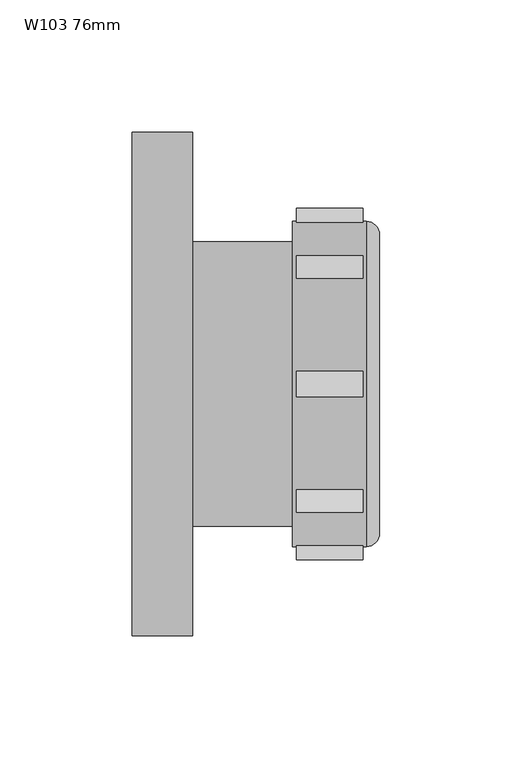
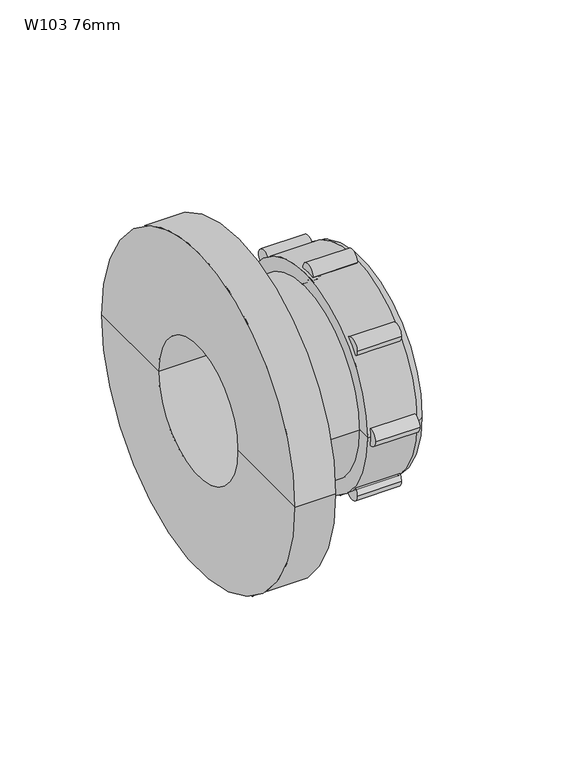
"""IFC4 building model written with IfcOpenShell, lengths in millimetres: pipe fitting geometry, Durapipe_PipeFitting_VulcatheneMechanical_Flange_(L364-L40) : W103 76mm."""

import ifcopenshell
import ifcopenshell.guid

model = None  # the IFC model being written
_history = None  # IfcOwnerHistory: only IFC2X3 demands one
_inside = {}  # id of a spatial element -> (the spatial element, [elements in it])
_under = {}  # id of a project, library or spatial element -> (it, [spatial elements below it])
_declared = {}  # id of a project -> (the project, [libraries it declares])
_typed = {}  # id of a type object -> (the type object, [elements of that type])
_made_of = {}  # id of a material, layer set ... -> (it, [elements and type objects made of it])


def new_model(schema):
    """Start an empty IFC model of exactly this schema.

    Asked for "IFC4X3", IfcOpenShell would pick the latest addendum, in which some entities
    have other attributes; the version numbers below select the first issue.
    IFC2X3 requires an IfcOwnerHistory on every rooted entity: one is made here for all.
    """
    global model, _history
    if schema == "IFC4X3":
        model = ifcopenshell.file(schema_version=(4, 3, 0, 0))
    else:
        model = ifcopenshell.file(schema=schema)
    _inside.clear()
    _under.clear()
    _declared.clear()
    _typed.clear()
    _made_of.clear()
    _history = None
    if model.schema == "IFC2X3":
        org = make("IfcOrganization", Name="unknown")
        user = make(
            "IfcPersonAndOrganization",
            ThePerson=make("IfcPerson", FamilyName="unknown"),
            TheOrganization=org,
        )
        app = make(
            "IfcApplication",
            ApplicationDeveloper=org,
            Version="unknown",
            ApplicationFullName="unknown",
            ApplicationIdentifier="unknown",
        )
        _history = make(
            "IfcOwnerHistory",
            OwningUser=user,
            OwningApplication=app,
            ChangeAction="ADDED",
            CreationDate=0,
        )
    return model


def make(cls, **values):
    """One entity of the class cls with the attributes given. An attribute that is None is left unset."""
    return model.create_entity(
        cls, **{name: value for name, value in values.items() if value is not None}
    )


def rooted(cls, **values):
    """An entity with a GlobalId (a new one), such as an element, a storey or a relation."""
    return make(cls, GlobalId=ifcopenshell.guid.new(), OwnerHistory=_history, **values)


def si_unit(unit_type, name, prefix=None):
    """IfcSIUnit, for example si_unit("LENGTHUNIT", "METRE", prefix="MILLI")."""
    return make("IfcSIUnit", UnitType=unit_type, Prefix=prefix, Name=name)


def assignment(units):
    """IfcUnitAssignment: the units of a project."""
    return None if units is None else make("IfcUnitAssignment", Units=units)


def point(xyz):
    """IfcCartesianPoint."""
    return None if xyz is None else make("IfcCartesianPoint", Coordinates=xyz)


def direction(xyz):
    """IfcDirection."""
    return None if xyz is None else make("IfcDirection", DirectionRatios=xyz)


def frame(location, z_axis=None, x_axis=None):
    """IfcAxis2Placement3D, a coordinate frame: its origin and axes. An axis left out is left unset."""
    return make(
        "IfcAxis2Placement3D",
        Location=point(location),
        Axis=direction(z_axis),
        RefDirection=direction(x_axis),
    )


def frame_2d(location, x_axis=None):
    """IfcAxis2Placement2D, a coordinate frame in the plane: its origin and x axis."""
    return make(
        "IfcAxis2Placement2D", Location=point(location), RefDirection=direction(x_axis)
    )


def origin():
    """The frame at (0, 0, 0) with its axes left unset."""
    return frame((0.0, 0.0, 0.0))


def place(relative_to, where):
    """IfcLocalPlacement: puts the frame where relative to a parent placement (None: the world)."""
    return make(
        "IfcLocalPlacement", PlacementRelTo=relative_to, RelativePlacement=where
    )


def context(
    kind, dimensions, precision=None, world=None, true_north=None, identifier=None
):
    """IfcGeometricRepresentationContext, for example the 3D "Model" context."""
    return make(
        "IfcGeometricRepresentationContext",
        ContextIdentifier=identifier,
        ContextType=kind,
        CoordinateSpaceDimension=dimensions,
        Precision=precision,
        WorldCoordinateSystem=world,
        TrueNorth=true_north,
    )


def project(units=None, contexts=None):
    """IfcProject with its units and contexts."""
    return rooted(
        "IfcProject",
        Name="project",
        RepresentationContexts=contexts,
        UnitsInContext=assignment(units),
    )


def spatial(cls, under=None, at=None, **own):
    """A site, building, storey or space (cls), placed at a placement, below another one or the project."""
    s = rooted(cls, ObjectPlacement=at, **own)
    if under is not None:
        _under.setdefault(under.id(), (under, []))[1].append(s)
    return s


def polyline(points):
    """IfcPolyline through the points."""
    return make("IfcPolyline", Points=[point(p) for p in points])


def circle_curve(where, radius):
    """IfcCircle in the frame where."""
    return make("IfcCircle", Position=where, Radius=radius)


def ellipse_curve(where, semi_axis1, semi_axis2):
    """IfcEllipse in the frame where."""
    return make(
        "IfcEllipse", Position=where, SemiAxis1=semi_axis1, SemiAxis2=semi_axis2
    )


def trimmed(basis, trim1, trim2, sense, master):
    """IfcTrimmedCurve: the piece of a basis curve between two trims."""
    return make(
        "IfcTrimmedCurve",
        BasisCurve=basis,
        Trim1=trim1,
        Trim2=trim2,
        SenseAgreement=sense,
        MasterRepresentation=master,
    )


def segment(curve, same_sense, transition):
    """IfcCompositeCurveSegment."""
    return make(
        "IfcCompositeCurveSegment",
        Transition=transition,
        SameSense=same_sense,
        ParentCurve=curve,
    )


def composite_curve(segments, self_intersect=None):
    """IfcCompositeCurve: segments joined end to end."""
    return make("IfcCompositeCurve", Segments=segments, SelfIntersect=self_intersect)


def outline(outer, holes=None, kind="AREA"):
    """IfcArbitraryClosedProfileDef: a profile drawn as a closed curve; with holes, ...WithVoids."""
    if holes is None:
        return make("IfcArbitraryClosedProfileDef", ProfileType=kind, OuterCurve=outer)
    return make(
        "IfcArbitraryProfileDefWithVoids",
        ProfileType=kind,
        OuterCurve=outer,
        InnerCurves=holes,
    )


def extrude(swept, where, along, depth):
    """IfcExtrudedAreaSolid: the profile swept, set in the frame where, extruded along a direction by depth."""
    return make(
        "IfcExtrudedAreaSolid",
        SweptArea=swept,
        Position=where,
        ExtrudedDirection=direction(along),
        Depth=depth,
    )


def shape(context_of_items, identifier, shape_type, items):
    """IfcShapeRepresentation: the items that make up one representation, for example the "Body"."""
    return make(
        "IfcShapeRepresentation",
        ContextOfItems=context_of_items,
        RepresentationIdentifier=identifier,
        RepresentationType=shape_type,
        Items=items,
    )


def source(mapping_origin, context_of_items, identifier, shape_type, items):
    """IfcRepresentationMap: a shape defined once, which mapped items show again and again."""
    return make(
        "IfcRepresentationMap",
        MappingOrigin=mapping_origin,
        MappedRepresentation=shape(context_of_items, identifier, shape_type, items),
    )


def transform(
    local_origin,
    x_axis=None,
    y_axis=None,
    z_axis=None,
    scale=None,
    scale2=None,
    scale3=None,
    uniform=True,
):
    """IfcCartesianTransformationOperator3D, or its non-uniform kind. x_axis, y_axis, z_axis: its Axis1, 2, 3."""
    if uniform:
        return make(
            "IfcCartesianTransformationOperator3D",
            Axis1=direction(x_axis),
            Axis2=direction(y_axis),
            LocalOrigin=point(local_origin),
            Scale=scale,
            Axis3=direction(z_axis),
        )
    return make(
        "IfcCartesianTransformationOperator3DnonUniform",
        Axis1=direction(x_axis),
        Axis2=direction(y_axis),
        LocalOrigin=point(local_origin),
        Scale=scale,
        Axis3=direction(z_axis),
        Scale2=scale2,
        Scale3=scale3,
    )


def mapped(mapping_source, mapping_target):
    """IfcMappedItem: shows the shape of a source again, moved by a transform."""
    return make(
        "IfcMappedItem", MappingSource=mapping_source, MappingTarget=mapping_target
    )


def made_of(thing, what):
    """Note that an element or type object is made of a material, layer set ...; save() writes the relation."""
    if what is not None:
        _made_of.setdefault(what.id(), (what, []))[1].append(thing)
    return thing


def element(
    cls,
    number,
    at=None,
    inside=None,
    cuts=None,
    type_object=None,
    material=None,
    context=None,
    identifier="Body",
    shape_type=None,
    held_by="IfcProductDefinitionShape",
    body=None,
    shapes=None,
    **own,
):
    """One element of the class cls, such as IfcWall. Its Tag is "e" and its number.

    at: its placement. inside: the storey or other place that contains it. cuts: it is an
    opening in that element (IfcRelVoidsElement). A single representation is given by context,
    identifier, shape_type and body (its items); several are given by shapes. held_by: the class
    of the entity that holds the representations. save() writes the other relations.
    """
    e = rooted(cls, Tag="e%d" % number, ObjectPlacement=at, **own)
    if body is not None:
        shapes = [shape(context, identifier, shape_type, body)]
    if shapes is not None:
        e.Representation = make(held_by, Representations=shapes)
    if inside is not None:
        _inside.setdefault(inside.id(), (inside, []))[1].append(e)
    if cuts is not None:
        rooted(
            "IfcRelVoidsElement", RelatingBuildingElement=cuts, RelatedOpeningElement=e
        )
    if type_object is not None:
        _typed.setdefault(type_object.id(), (type_object, []))[1].append(e)
    return made_of(e, material)


def aggregate(whole, parts):
    """IfcRelAggregates: a whole, such as a stair, and the parts it consists of."""
    return rooted("IfcRelAggregates", RelatingObject=whole, RelatedObjects=parts)


def save(model, path):
    """Write the relations noted so far, then the file.

    IfcRelAggregates (storeys below a building ...), IfcRelContainedInSpatialStructure (elements
    in a storey), IfcRelDefinesByType, IfcRelAssociatesMaterial and IfcRelDeclares: one each for
    every whole, place, type object, material and project.
    """
    for whole, parts in _under.values():
        aggregate(whole, parts)
    for where, things in _inside.values():
        rooted(
            "IfcRelContainedInSpatialStructure",
            RelatedElements=things,
            RelatingStructure=where,
        )
    for kind, things in _typed.values():
        rooted("IfcRelDefinesByType", RelatedObjects=things, RelatingType=kind)
    for what, things in _made_of.values():
        rooted("IfcRelAssociatesMaterial", RelatedObjects=things, RelatingMaterial=what)
    for by, libraries in _declared.values():
        rooted("IfcRelDeclares", RelatingContext=by, RelatedDefinitions=libraries)
    model.write(path)


def plane_surface(at):
    """IfcPlane: the flat surface through the origin of the frame at, square to its z axis."""
    return make("IfcPlane", Position=at)


def cylinder_surface(at, radius):
    """IfcCylindricalSurface: all points at the distance radius from the z axis of the frame at."""
    return make("IfcCylindricalSurface", Position=at, Radius=radius)


def revolved_surface(curve, axis_point, axis_direction):
    """IfcSurfaceOfRevolution: the curve turned about the line through axis_point along axis_direction."""
    return make(
        "IfcSurfaceOfRevolution",
        SweptCurve=make("IfcArbitraryOpenProfileDef", ProfileType="CURVE", Curve=curve),
        AxisPosition=make("IfcAxis1Placement", Location=point(axis_point), Axis=direction(axis_direction)),
    )


def advanced_brep(points, edges, surfaces, faces):
    """IfcAdvancedBrep: a solid bounded by faces that lie on surfaces and meet in shared edges.

    An edge is (start, end): straight between two places in points (the first is 0);
    or (start, end, curve); or (start, end, curve, False) where it runs against its curve.
    A face is (place in surfaces, loops), or (place, loops, False) where it looks against
    its surface's normal. A loop lists edges by number (the first is 1), with a minus sign
    where the edge is run from its end to its start. The first loop is the outer one.
    """
    corners = [point(p) for p in points]
    vertices = [make("IfcVertexPoint", VertexGeometry=c) for c in corners]
    made = []
    for start, end, *more in edges:
        made.append(
            make(
                "IfcEdgeCurve",
                EdgeStart=vertices[start],
                EdgeEnd=vertices[end],
                EdgeGeometry=more[0] if more else make("IfcPolyline", Points=[corners[start], corners[end]]),
                SameSense=more[1] if len(more) > 1 else True,
            )
        )
    hull = []
    for where, loops, *sense in faces:
        bounds = []
        for j, loop in enumerate(loops):
            ring = [make("IfcOrientedEdge", EdgeElement=made[abs(k) - 1], Orientation=k > 0) for k in loop]
            bounds.append(
                make(
                    "IfcFaceOuterBound" if j == 0 else "IfcFaceBound",
                    Bound=make("IfcEdgeLoop", EdgeList=ring),
                    Orientation=True,
                )
            )
        hull.append(make("IfcAdvancedFace", Bounds=bounds, FaceSurface=surfaces[where], SameSense=sense[0] if sense else True))
    return make("IfcAdvancedBrep", Outer=make("IfcClosedShell", CfsFaces=hull))


def w103_76mm_3b32ef74(model_context):
    return source(origin(), model_context, "Body", "SolidModel", [
        advanced_brep(
        [(40.5, -35.9917352, -35.9917352), (40.5, 35.9917352, 35.9917352), (40.5, 31.3248304, 31.3248304), (40.5, -31.3248304, -31.3248304), (20.2, -32.8804653, -32.8804653), (20.2, 32.8804653, 32.8804653), (-4.5, -32.8804653, -32.8804653), (-4.5, 32.8804653, 32.8804653), (-4.5, -31.3248304, -31.3248304), (-4.5, 31.3248304, 31.3248304), (29.8, -31.3248304, -31.3248304), (29.8, 31.3248304, 31.3248304), (29.8, -30.6884343, -30.6884343), (29.8, 30.6884343, 30.6884343), (34.4, -31.3248304, -31.3248304), (34.4, 31.3248304, 31.3248304), (34.4, 30.6884343, 30.6884343), (34.4, -30.6884343, -30.6884343)],
        [
            (0, 1, circle_curve(frame((40.5, 0.0, 0.0), z_axis=(1.0, 0.0, 0.0), x_axis=(0.0, 0.7071067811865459, 0.7071067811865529)), 50.9)),
            (1, 2),
            (2, 3, circle_curve(frame((40.5, 0.0, 0.0), z_axis=(-1.0, 0.0, 0.0), x_axis=(0.0, 0.7071067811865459, 0.7071067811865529)), 44.3)),
            (3, 0),
            (1, 0, circle_curve(frame((40.5, 0.0, 0.0), z_axis=(1.0, 0.0, 0.0), x_axis=(0.0, 0.7071067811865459, 0.7071067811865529)), 50.9)),
            (3, 2, circle_curve(frame((40.5, 0.0, 0.0), z_axis=(-1.0, 0.0, 0.0), x_axis=(0.0, 0.7071067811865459, 0.7071067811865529)), 44.3)),
            (0, 4),
            (4, 5, circle_curve(frame((20.2, 0.0, 0.0), z_axis=(1.0, 0.0, 0.0), x_axis=(0.0, 0.7071067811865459, 0.7071067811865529)), 46.5)),
            (5, 1),
            (5, 4, circle_curve(frame((20.2, 0.0, 0.0), z_axis=(1.0, 0.0, 0.0), x_axis=(0.0, 0.7071067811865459, 0.7071067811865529)), 46.5)),
            (6, 7, circle_curve(frame((-4.5, 0.0, 0.0), z_axis=(1.0, 0.0, 0.0), x_axis=(0.0, 0.7071067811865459, 0.7071067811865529)), 46.5)),
            (7, 5),
            (4, 6),
            (7, 6, circle_curve(frame((-4.5, 0.0, 0.0), z_axis=(1.0, 0.0, 0.0), x_axis=(0.0, 0.7071067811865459, 0.7071067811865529)), 46.5)),
            (6, 8),
            (8, 9, circle_curve(frame((-4.5, 0.0, 0.0), z_axis=(1.0, 0.0, 0.0), x_axis=(0.0, 0.7071067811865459, 0.7071067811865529)), 44.3)),
            (9, 7),
            (9, 8, circle_curve(frame((-4.5, 0.0, 0.0), z_axis=(1.0, 0.0, 0.0), x_axis=(0.0, 0.7071067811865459, 0.7071067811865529)), 44.3)),
            (8, 10),
            (10, 11, circle_curve(frame((29.8, 0.0, 0.0), z_axis=(1.0, 0.0, 0.0), x_axis=(0.0, 0.7071067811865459, 0.7071067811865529)), 44.3)),
            (11, 9),
            (11, 10, circle_curve(frame((29.8, 0.0, 0.0), z_axis=(1.0, 0.0, 0.0), x_axis=(0.0, 0.7071067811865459, 0.7071067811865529)), 44.3)),
            (10, 12),
            (12, 13, circle_curve(frame((29.8, 0.0, 0.0), z_axis=(1.0, 0.0, 0.0), x_axis=(0.0, 0.7071067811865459, 0.7071067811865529)), 43.4)),
            (13, 11),
            (13, 12, circle_curve(frame((29.8, 0.0, 0.0), z_axis=(1.0, 0.0, 0.0), x_axis=(0.0, 0.7071067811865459, 0.7071067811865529)), 43.4)),
            (14, 15, circle_curve(frame((34.4, 0.0, 0.0), z_axis=(1.0, 0.0, 0.0), x_axis=(0.0, 0.7071067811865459, 0.7071067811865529)), 44.3)),
            (15, 16),
            (16, 17, circle_curve(frame((34.4, 0.0, 0.0), z_axis=(-1.0, 0.0, 0.0), x_axis=(0.0, 0.7071067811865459, 0.7071067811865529)), 43.4)),
            (17, 14),
            (15, 14, circle_curve(frame((34.4, 0.0, 0.0), z_axis=(1.0, 0.0, 0.0), x_axis=(0.0, 0.7071067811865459, 0.7071067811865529)), 44.3)),
            (17, 16, circle_curve(frame((34.4, 0.0, 0.0), z_axis=(-1.0, 0.0, 0.0), x_axis=(0.0, 0.7071067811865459, 0.7071067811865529)), 43.4)),
            (2, 15),
            (14, 3),
            (12, 17),
            (16, 13),
        ],
        [
            plane_surface(frame((40.5, 0.0, 0.0), z_axis=(1.0, 0.0, 0.0), x_axis=(0.0, 0.707106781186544, 0.707106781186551))),
            revolved_surface(polyline([(40.5, 35.9917352, 35.9917352), (20.2, 32.8804653, 32.8804653)]), (45.5, 0.0, 0.0), (-1.0000000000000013, 0.0, 0.0)),
            cylinder_surface(frame((-6.5706557, 0.0, 0.0), z_axis=(-1.0000000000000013, 0.0, 0.0), x_axis=(0.0, 0.7071067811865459, 0.7071067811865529)), 46.5),
            plane_surface(frame((-4.5, 0.0, 0.0), z_axis=(-1.0, 0.0, 0.0), x_axis=(0.0, 0.707106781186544, 0.707106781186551))),
            revolved_surface(polyline([(-4.499999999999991, 31.324830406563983, 31.324830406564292), (29.8000000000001, 31.324830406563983, 31.324830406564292)]), (-7.992991, 0.0, 0.0), (-1.0000000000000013, 0.0, 0.0)),
            plane_surface(frame((29.8, 0.0, 0.0), z_axis=(-1.0, 0.0, 0.0), x_axis=(0.0, 0.707106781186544, 0.707106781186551))),
            plane_surface(frame((34.4, 0.0, 0.0), z_axis=(1.0, 0.0, 0.0), x_axis=(0.0, 0.707106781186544, 0.707106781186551))),
            revolved_surface(polyline([(34.39999999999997, 31.324830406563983, 31.324830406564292), (40.499999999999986, 31.324830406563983, 31.324830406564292)]), (45.5, 0.0, 0.0), (-1.0000000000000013, 0.0, 0.0)),
            revolved_surface(polyline([(29.79999999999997, 30.68843430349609, 30.688434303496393), (34.39999999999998, 30.68843430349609, 30.688434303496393)]), (42.0661924, 0.0, 0.0), (-1.0000000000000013, 0.0, 0.0)),
        ],
        [
            (0, [[1, 2, 3, 4]]),
            (0, [[-2, 5, -4, 6]]),
            (1, [[-1, 7, 8, 9]]),
            (1, [[-5, -9, 10, -7]]),
            (2, [[11, 12, -8, 13]]),
            (2, [[-12, 14, -13, -10]]),
            (3, [[-11, 15, 16, 17]]),
            (3, [[-14, -17, 18, -15]]),
            (4, [[19, 20, 21, -16]]),
            (4, [[-19, -18, -21, 22]]),
            (5, [[-20, 23, 24, 25]]),
            (5, [[-22, -25, 26, -23]]),
            (6, [[27, 28, 29, 30]]),
            (6, [[31, -30, 32, -28]]),
            (7, [[-3, 33, -27, 34]]),
            (7, [[-6, -34, -31, -33]]),
            (8, [[35, -29, 36, -24]]),
            (8, [[-35, -26, -36, -32]]),
        ],
    ),
        advanced_brep(
        [(13.8, -61.5, 0.0), (13.8, 61.5, 0.0), (41.8, 61.5, 0.0), (41.8, -61.5, 0.0), (13.8, -53.0, 0.0), (13.8, 53.0, 0.0), (46.8, -56.5, 0.0), (46.8, 56.5, 0.0), (46.8, 45.0, 0.0), (46.8, -45.0, 0.0), (40.5, -53.0, 0.0), (40.5, 53.0, 0.0), (40.5, -45.0, 0.0), (40.5, 45.0, 0.0)],
        [
            (0, 1, circle_curve(frame((13.8, 0.0, 0.0), z_axis=(1.0, 0.0, 0.0), x_axis=(0.0, 1.0000000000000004, 0.0)), 61.5)),
            (1, 2),
            (2, 3, circle_curve(frame((41.8, 0.0, 0.0), z_axis=(-1.0, 0.0, 0.0), x_axis=(0.0, 1.0000000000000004, 0.0)), 61.5)),
            (3, 0),
            (1, 0, circle_curve(frame((13.8, 0.0, 0.0), z_axis=(1.0, 0.0, 0.0), x_axis=(0.0, 1.0000000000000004, 0.0)), 61.5)),
            (3, 2, circle_curve(frame((41.8, 0.0, 0.0), z_axis=(-1.0, 0.0, 0.0), x_axis=(0.0, 1.0000000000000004, 0.0)), 61.5)),
            (4, 5, circle_curve(frame((13.8, 0.0, 0.0), z_axis=(1.0, 0.0, 0.0), x_axis=(0.0, 1.0000000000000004, 0.0)), 53.0)),
            (5, 1),
            (0, 4),
            (5, 4, circle_curve(frame((13.8, 0.0, 0.0), z_axis=(1.0, 0.0, 0.0), x_axis=(0.0, 1.0000000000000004, 0.0)), 53.0)),
            (6, 7, circle_curve(frame((46.8, 0.0, 0.0), z_axis=(1.0, 0.0, 0.0), x_axis=(0.0, 1.0000000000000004, 0.0)), 56.5)),
            (7, 8),
            (8, 9, circle_curve(frame((46.8, 0.0, 0.0), z_axis=(-1.0, 0.0, 0.0), x_axis=(0.0, 1.0000000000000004, 0.0)), 45.0)),
            (9, 6),
            (7, 6, circle_curve(frame((46.8, 0.0, 0.0), z_axis=(1.0, 0.0, 0.0), x_axis=(0.0, 1.0000000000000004, 0.0)), 56.5)),
            (9, 8, circle_curve(frame((46.8, 0.0, 0.0), z_axis=(-1.0, 0.0, 0.0), x_axis=(0.0, 1.0000000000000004, 0.0)), 45.0)),
            (2, 7, circle_curve(frame((41.8, 56.5, 0.0), z_axis=(0.0, 0.0, -1.0000000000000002), x_axis=(1.0000000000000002, 0.0, 0.0)), 5.0)),
            (6, 3, circle_curve(frame((41.8, -56.5, 0.0), z_axis=(0.0, 0.0, -1.0000000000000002), x_axis=(1.0000000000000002, 0.0, 0.0)), 5.0)),
            (10, 11, circle_curve(frame((40.5, 0.0, 0.0), z_axis=(1.0, 0.0, 0.0), x_axis=(0.0, 1.0000000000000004, 0.0)), 53.0)),
            (11, 5),
            (4, 10),
            (11, 10, circle_curve(frame((40.5, 0.0, 0.0), z_axis=(1.0, 0.0, 0.0), x_axis=(0.0, 1.0000000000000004, 0.0)), 53.0)),
            (12, 13, circle_curve(frame((40.5, 0.0, 0.0), z_axis=(1.0, 0.0, 0.0), x_axis=(0.0, 1.0000000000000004, 0.0)), 45.0)),
            (13, 11),
            (10, 12),
            (13, 12, circle_curve(frame((40.5, 0.0, 0.0), z_axis=(1.0, 0.0, 0.0), x_axis=(0.0, 1.0000000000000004, 0.0)), 45.0)),
            (8, 13),
            (12, 9),
        ],
        [
            cylinder_surface(frame((1607.6018184, 0.0, 0.0), z_axis=(-1.0000000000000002, 0.0, 0.0), x_axis=(0.0, 1.0000000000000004, 0.0)), 61.5),
            plane_surface(frame((13.8, 0.0, 0.0), z_axis=(-1.0, 0.0, 0.0), x_axis=(0.0, 1.0, 0.0))),
            plane_surface(frame((46.8, 0.0, 0.0), z_axis=(1.0, 0.0, 0.0), x_axis=(0.0, 1.0, 0.0))),
            revolved_surface(trimmed(ellipse_curve(frame((41.8, 56.5, 0.0), z_axis=(0.0, 0.0, 1.0000000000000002), x_axis=(1.0000000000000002, 0.0, 0.0)), 5.0, 5.0), [point((46.8, 56.5, 0.0))], [point((41.8, 61.5, 0.0))], True, "CARTESIAN"), (1607.6018184, 0.0, 0.0), (-1.0000000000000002, 0.0, 0.0)),
            revolved_surface(polyline([(13.799999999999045, 53.00000000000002, 0.0), (40.49999999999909, 53.00000000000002, 0.0)]), (1607.6018184, 0.0, 0.0), (-1.0000000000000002, 0.0, 0.0)),
            plane_surface(frame((40.5, 0.0, 0.0), z_axis=(-1.0, 0.0, 0.0), x_axis=(0.0, 1.0, 0.0))),
            revolved_surface(polyline([(40.49999999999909, 45.00000000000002, 0.0), (46.799999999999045, 45.00000000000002, 0.0)]), (1607.6018184, 0.0, 0.0), (-1.0000000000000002, 0.0, 0.0)),
        ],
        [
            (0, [[1, 2, 3, 4]]),
            (0, [[5, -4, 6, -2]]),
            (1, [[7, 8, -1, 9]]),
            (1, [[10, -9, -5, -8]]),
            (2, [[11, 12, 13, 14]]),
            (2, [[15, -14, 16, -12]]),
            (3, [[-3, 17, -11, 18]]),
            (3, [[-6, -18, -15, -17]]),
            (4, [[19, 20, -7, 21]]),
            (4, [[22, -21, -10, -20]]),
            (5, [[23, 24, -19, 25]]),
            (5, [[26, -25, -22, -24]]),
            (6, [[-13, 27, -23, 28]]),
            (6, [[-16, -28, -26, -27]]),
        ],
    ),
        extrude(outline(composite_curve([segment(trimmed(circle_curve(frame_2d((0.0, 61.5)), 5.0), [point((-5.0, 61.5))], [point((5.0, 61.5))], False, "CARTESIAN"), True, "CONTINUOUS"), segment(trimmed(circle_curve(frame_2d((0.0, 61.5)), 5.0), [point((5.0, 61.5))], [point((-5.0, 61.5))], False, "CARTESIAN"), True, "CONTINUOUS")], self_intersect=False)), frame((15.3, 0.0, 0.0), z_axis=(1.0, 0.0, 0.0), x_axis=(0.0, 1.0, 0.0)), (0.0, 0.0, 1.0), 25.2),
        extrude(outline(composite_curve([segment(trimmed(circle_curve(frame_2d((43.487067, 43.487067)), 5.0), [point((38.487067, 43.487067))], [point((48.487067, 43.487067))], False, "CARTESIAN"), True, "CONTINUOUS"), segment(trimmed(circle_curve(frame_2d((43.487067, 43.487067)), 5.0), [point((48.487067, 43.487067))], [point((38.487067, 43.487067))], False, "CARTESIAN"), True, "CONTINUOUS")], self_intersect=False)), frame((15.3, 0.0, 0.0), z_axis=(1.0, 0.0, 0.0), x_axis=(0.0, 1.0, 0.0)), (0.0, 0.0, 1.0), 25.2),
        extrude(outline(composite_curve([segment(trimmed(circle_curve(frame_2d((61.5, 0.0)), 5.0), [point((56.5, 0.0))], [point((66.5, 0.0))], False, "CARTESIAN"), True, "CONTINUOUS"), segment(trimmed(circle_curve(frame_2d((61.5, 0.0)), 5.0), [point((66.5, 0.0))], [point((56.5, 0.0))], False, "CARTESIAN"), True, "CONTINUOUS")], self_intersect=False)), frame((15.3, 0.0, 0.0), z_axis=(1.0, 0.0, 0.0), x_axis=(0.0, 1.0, 0.0)), (0.0, 0.0, 1.0), 25.2),
        extrude(outline(composite_curve([segment(trimmed(circle_curve(frame_2d((43.487067, -43.487067)), 5.0), [point((38.487067, -43.487067))], [point((48.487067, -43.487067))], False, "CARTESIAN"), True, "CONTINUOUS"), segment(trimmed(circle_curve(frame_2d((43.487067, -43.487067)), 5.0), [point((48.487067, -43.487067))], [point((38.487067, -43.487067))], False, "CARTESIAN"), True, "CONTINUOUS")], self_intersect=False)), frame((15.3, 0.0, 0.0), z_axis=(1.0, 0.0, 0.0), x_axis=(0.0, 1.0, 0.0)), (0.0, 0.0, 1.0), 25.2),
        extrude(outline(composite_curve([segment(trimmed(circle_curve(frame_2d((0.0, -61.5)), 5.0), [point((-5.0, -61.5))], [point((5.0, -61.5))], False, "CARTESIAN"), True, "CONTINUOUS"), segment(trimmed(circle_curve(frame_2d((0.0, -61.5)), 5.0), [point((5.0, -61.5))], [point((-5.0, -61.5))], False, "CARTESIAN"), True, "CONTINUOUS")], self_intersect=False)), frame((15.3, 0.0, 0.0), z_axis=(1.0, 0.0, 0.0), x_axis=(0.0, 1.0, 0.0)), (0.0, 0.0, 1.0), 25.2),
        extrude(outline(composite_curve([segment(trimmed(circle_curve(frame_2d((-43.487067, -43.487067)), 5.0), [point((-48.487067, -43.487067))], [point((-38.487067, -43.487067))], False, "CARTESIAN"), True, "CONTINUOUS"), segment(trimmed(circle_curve(frame_2d((-43.487067, -43.487067)), 5.0), [point((-38.487067, -43.487067))], [point((-48.487067, -43.487067))], False, "CARTESIAN"), True, "CONTINUOUS")], self_intersect=False)), frame((15.3, 0.0, 0.0), z_axis=(1.0, 0.0, 0.0), x_axis=(0.0, 1.0, 0.0)), (0.0, 0.0, 1.0), 25.2),
        extrude(outline(composite_curve([segment(trimmed(circle_curve(frame_2d((-61.5, 0.0)), 5.0), [point((-66.5, 0.0))], [point((-56.5, 0.0))], False, "CARTESIAN"), True, "CONTINUOUS"), segment(trimmed(circle_curve(frame_2d((-61.5, 0.0)), 5.0), [point((-56.5, 0.0))], [point((-66.5, 0.0))], False, "CARTESIAN"), True, "CONTINUOUS")], self_intersect=False)), frame((15.3, 0.0, 0.0), z_axis=(1.0, 0.0, 0.0), x_axis=(0.0, 1.0, 0.0)), (0.0, 0.0, 1.0), 25.2),
        extrude(outline(composite_curve([segment(trimmed(circle_curve(frame_2d((-43.487067, 43.487067)), 5.0), [point((-48.487067, 43.487067))], [point((-38.487067, 43.487067))], False, "CARTESIAN"), True, "CONTINUOUS"), segment(trimmed(circle_curve(frame_2d((-43.487067, 43.487067)), 5.0), [point((-38.487067, 43.487067))], [point((-48.487067, 43.487067))], False, "CARTESIAN"), True, "CONTINUOUS")], self_intersect=False)), frame((15.3, 0.0, 0.0), z_axis=(1.0, 0.0, 0.0), x_axis=(0.0, 1.0, 0.0)), (0.0, 0.0, 1.0), 25.2),
        advanced_brep(
        [(-23.9, -53.75, 0.0), (-23.9, 53.75, 0.0), (40.5, 53.75, 0.0), (40.5, -53.75, 0.0), (-23.9, -95.25, 0.0), (-23.9, 95.25, 0.0), (-46.9, -95.25, 0.0), (-46.9, 95.25, 0.0), (-46.9, -39.2, 0.0), (-46.9, 39.2, 0.0), (40.5, 48.05, 0.0), (40.5, -48.05, 0.0), (-6.0, -39.2, 0.0), (-6.0, 39.2, 0.0), (-6.0, 48.05, 0.0), (-6.0, -48.05, 0.0)],
        [
            (0, 1, circle_curve(frame((-23.9, 0.0, 0.0), z_axis=(1.0, 0.0, 0.0), x_axis=(0.0, 1.0, 0.0)), 53.75)),
            (1, 2),
            (2, 3, circle_curve(frame((40.5, 0.0, 0.0), z_axis=(-1.0, 0.0, 0.0), x_axis=(0.0, 1.0, 0.0)), 53.75)),
            (3, 0),
            (1, 0, circle_curve(frame((-23.9, 0.0, 0.0), z_axis=(1.0, 0.0, 0.0), x_axis=(0.0, 1.0, 0.0)), 53.75)),
            (3, 2, circle_curve(frame((40.5, 0.0, 0.0), z_axis=(-1.0, 0.0, 0.0), x_axis=(0.0, 1.0, 0.0)), 53.75)),
            (0, 4),
            (4, 5, circle_curve(frame((-23.9, 0.0, 0.0), z_axis=(1.0, 0.0, 0.0), x_axis=(0.0, 1.0, 0.0)), 95.25)),
            (5, 1),
            (5, 4, circle_curve(frame((-23.9, 0.0, 0.0), z_axis=(1.0, 0.0, 0.0), x_axis=(0.0, 1.0, 0.0)), 95.25)),
            (4, 6),
            (6, 7, circle_curve(frame((-46.9, 0.0, 0.0), z_axis=(1.0, 0.0, 0.0), x_axis=(0.0, 1.0, 0.0)), 95.25)),
            (7, 5),
            (7, 6, circle_curve(frame((-46.9, 0.0, 0.0), z_axis=(1.0, 0.0, 0.0), x_axis=(0.0, 1.0, 0.0)), 95.25)),
            (6, 8),
            (8, 9, circle_curve(frame((-46.9, 0.0, 0.0), z_axis=(1.0, 0.0, 0.0), x_axis=(0.0, 1.0, 0.0)), 39.2)),
            (9, 7),
            (9, 8, circle_curve(frame((-46.9, 0.0, 0.0), z_axis=(1.0, 0.0, 0.0), x_axis=(0.0, 1.0, 0.0)), 39.2)),
            (2, 10),
            (10, 11, circle_curve(frame((40.5, 0.0, 0.0), z_axis=(-1.0, 0.0, 0.0), x_axis=(0.0, 1.0, 0.0)), 48.05)),
            (11, 3),
            (11, 10, circle_curve(frame((40.5, 0.0, 0.0), z_axis=(-1.0, 0.0, 0.0), x_axis=(0.0, 1.0, 0.0)), 48.05)),
            (8, 12),
            (12, 13, circle_curve(frame((-6.0, 0.0, 0.0), z_axis=(1.0, 0.0, 0.0), x_axis=(0.0, 1.0, 0.0)), 39.2)),
            (13, 9),
            (13, 12, circle_curve(frame((-6.0, 0.0, 0.0), z_axis=(1.0, 0.0, 0.0), x_axis=(0.0, 1.0, 0.0)), 39.2)),
            (14, 15, circle_curve(frame((-6.0, 0.0, 0.0), z_axis=(-1.0, 0.0, 0.0), x_axis=(0.0, 1.0, 0.0)), 48.05)),
            (15, 11),
            (10, 14),
            (15, 14, circle_curve(frame((-6.0, 0.0, 0.0), z_axis=(-1.0, 0.0, 0.0), x_axis=(0.0, 1.0, 0.0)), 48.05)),
            (14, 13),
            (12, 15),
        ],
        [
            cylinder_surface(frame((-71.9, 0.0, 0.0), z_axis=(-1.0, 0.0, 0.0), x_axis=(0.0, 1.0, 0.0)), 53.75),
            plane_surface(frame((-23.9, 0.0, 0.0), z_axis=(1.0, 0.0, 0.0), x_axis=(0.0, 1.0, 0.0))),
            cylinder_surface(frame((-71.9, 0.0, 0.0), z_axis=(-1.0, 0.0, 0.0), x_axis=(0.0, 1.0, 0.0)), 95.25),
            plane_surface(frame((-46.9, 0.0, 0.0), z_axis=(-1.0, 0.0, 0.0), x_axis=(0.0, 1.0, 0.0))),
            plane_surface(frame((40.5, 0.0, 0.0), z_axis=(1.0, 0.0, 0.0), x_axis=(0.0, 1.0, 0.0))),
            revolved_surface(polyline([(-46.9, 39.2, 0.0), (-6.0, 39.2, 0.0)]), (-71.9, 0.0, 0.0), (-1.0, 0.0, 0.0)),
            revolved_surface(polyline([(-6.0, 48.05, 0.0), (40.50000000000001, 48.05, 0.0)]), (-61.9, 0.0, 0.0), (-1.0, 0.0, 0.0)),
            plane_surface(frame((-6.0, 0.0, 0.0), z_axis=(1.0, 0.0, 0.0), x_axis=(0.0, 1.0, 0.0))),
        ],
        [
            (0, [[1, 2, 3, 4]]),
            (0, [[-2, 5, -4, 6]]),
            (1, [[-1, 7, 8, 9]]),
            (1, [[-5, -9, 10, -7]]),
            (2, [[-8, 11, 12, 13]]),
            (2, [[-10, -13, 14, -11]]),
            (3, [[-12, 15, 16, 17]]),
            (3, [[-14, -17, 18, -15]]),
            (4, [[-3, 19, 20, 21]]),
            (4, [[-6, -21, 22, -19]]),
            (5, [[-16, 23, 24, 25]]),
            (5, [[-18, -25, 26, -23]]),
            (6, [[27, 28, -20, 29]]),
            (6, [[30, -29, -22, -28]]),
            (7, [[-27, 31, -24, 32]]),
            (7, [[-30, -32, -26, -31]]),
        ],
    ),
    ])


if __name__ == "__main__":
    model = new_model("IFC4")
    model_context = context("Model", 3, world=origin())
    ifc_project = project(units=[si_unit("LENGTHUNIT", "METRE", prefix="MILLI")], contexts=[model_context])
    site = spatial("IfcSite", under=ifc_project)
    building = spatial("IfcBuilding", under=site)
    placement = place(None, origin())
    w103_76mm_shape = w103_76mm_3b32ef74(model_context)
    element("IfcPipeFitting", 1, ObjectType="Durapipe_PipeFitting_VulcatheneMechanical_Flange_(L364-L40) : W103 76mm", at=placement, inside=building, context=model_context, shape_type="MappedRepresentation", body=[
        mapped(w103_76mm_shape, transform((0.0, 0.0, 0.0), x_axis=(1.0, 0.0, 0.0), y_axis=(0.0, 1.0, 0.0), z_axis=(0.0, 0.0, 1.0))),
    ])
    save(model, "model.ifc")
